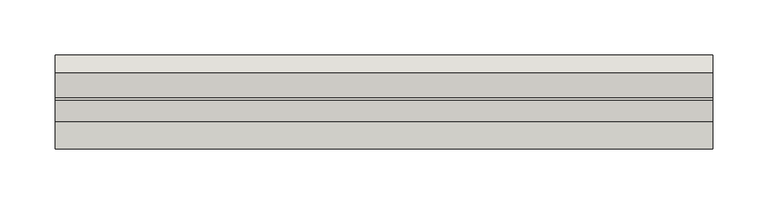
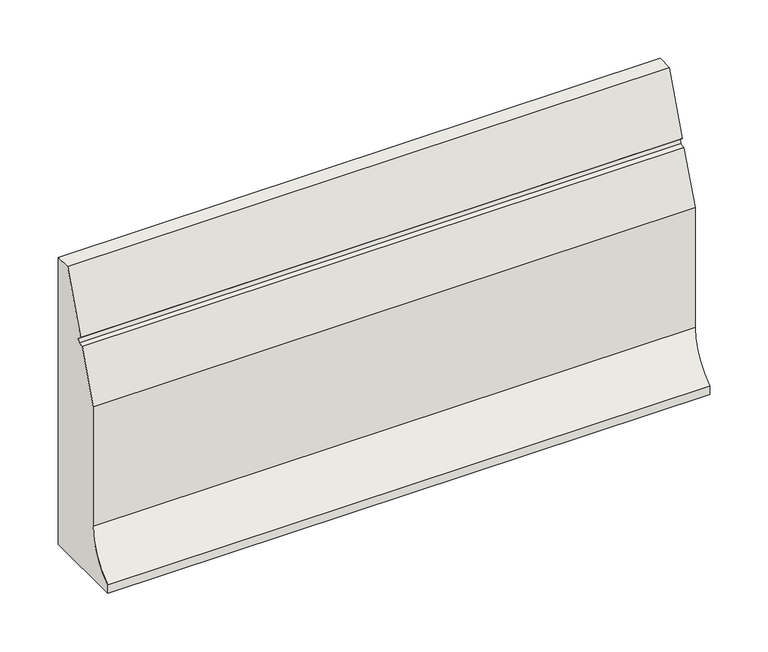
"""IFC4 building model written with IfcOpenShell, lengths in millimetres: wall geometry, GM_PC_WPB_ACO kerb PB straight_ACO : PB H300 standard."""

from ifc_helpers import new_model, si_unit, frame, origin, place, context, project, spatial, source, transform, mapped, element, save
from ifc_brep_helpers import plane_surface, extruded_surface, spline_curve, advanced_brep


def wall_d662d532(model_context):
    return source(origin(), model_context, "Body", "AdvancedBrep", [
        advanced_brep(
        [(0.0, -85.0, 8.9329844), (0.0, -60.02016, 54.9904169), (0.0, -60.02016, 180.0038512), (0.0, -41.0897152, 231.6973826), (0.0, -35.6304755, 232.1929291), (0.0, -34.2965161, 236.00239), (0.0, -38.3747848, 239.3170113), (0.0, -16.191681, 300.0008401), (0.0, 0.0, 300.0008401), (0.0, 0.0, -0.0124899), (0.0, -85.0, -0.0124899), (595.0, -85.0, 8.9329844), (595.0, -85.0, -0.0124899), (595.0, 0.0, -0.0124899), (595.0, 0.0, 300.0008401), (595.0, -16.191681, 300.0008401), (595.0, -38.3747848, 239.3170113), (595.0, -34.2965161, 236.00239), (595.0, -35.6304755, 232.1929291), (595.0, -41.0897152, 231.6973826), (595.0, -60.02016, 180.0038512), (595.0, -60.02016, 54.9904169)],
        [
            (0, 1, spline_curve(3, [(0.0, -85.0, 8.9329844), (0.0, -69.4194957, 19.0724445), (0.0, -60.0210198, 36.401179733), (0.0, -60.02016, 54.9904169)], [4, 4], [0.0, 1.0])),
            (1, 2),
            (2, 3),
            (3, 4),
            (4, 5),
            (5, 6),
            (6, 7),
            (7, 8),
            (8, 9),
            (9, 10),
            (10, 0),
            (11, 12),
            (12, 13),
            (13, 14),
            (14, 15),
            (15, 16),
            (16, 17),
            (17, 18),
            (18, 19),
            (19, 20),
            (20, 21),
            (21, 11, spline_curve(3, [(595.0, -60.02016, 54.9904169), (595.0, -60.0210198, 36.401179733), (595.0, -69.4194957, 19.0724445), (595.0, -85.0, 8.9329844)], [4, 4], [0.0, 1.0])),
            (0, 11),
            (21, 1),
            (20, 2),
            (19, 3),
            (18, 4),
            (17, 5),
            (16, 6),
            (15, 7),
            (14, 8),
            (13, 9),
            (12, 10),
        ],
        [
            plane_surface(frame((0.0, 0.0, 0.0), z_axis=(-1.0, 0.0, 0.0), x_axis=(0.0, 0.0, 1.0))),
            plane_surface(frame((595.0, 0.0, 0.0), z_axis=(1.0, 0.0, 0.0), x_axis=(0.0, 0.0, 1.0))),
            extruded_surface(spline_curve(3, [(595.0, -85.0, 8.9329844), (595.0, -69.4194957, 19.0724445), (595.0, -60.0210198, 36.401179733), (595.0, -60.02016, 54.9904169)], [4, 4], [0.0, 1.0]), (-595.0, 0.0, 0.0), 595.0),
            plane_surface(frame((0.0, -60.02016, 54.9904169), z_axis=(0.0, -1.0, 0.0), x_axis=(1.0, 0.0, 0.0))),
            plane_surface(frame((0.0, -60.02016, 180.0038512), z_axis=(0.0, -0.9390162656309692, 0.34387272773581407), x_axis=(1.0, 0.0, 0.0))),
            plane_surface(frame((0.0, -41.0897152, 231.6973826), z_axis=(0.0, -0.09040040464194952, 0.995905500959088), x_axis=(1.0, 0.0, 0.0))),
            plane_surface(frame((0.0, -35.6304755, 232.1929291), z_axis=(0.0, -0.9438082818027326, 0.3304934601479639), x_axis=(1.0, 0.0, 0.0))),
            plane_surface(frame((0.0, -34.2965161, 236.00239), z_axis=(0.0, -0.6307104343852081, -0.776018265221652), x_axis=(1.0, 0.0, 0.0))),
            plane_surface(frame((0.0, -38.3747848, 239.3170113), z_axis=(0.0, -0.9392141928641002, 0.3433317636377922), x_axis=(1.0, 0.0, 0.0))),
            plane_surface(frame((0.0, -16.191681, 300.0008401), z_axis=(0.0, 0.0, 1.0), x_axis=(1.0, 0.0, 0.0))),
            plane_surface(frame((0.0, 0.0, 300.0008401), z_axis=(0.0, 1.0, 0.0), x_axis=(1.0, 0.0, 0.0))),
            plane_surface(frame((0.0, 0.0, -0.0124899), z_axis=(0.0, 0.0, -1.0), x_axis=(1.0, 0.0, 0.0))),
            plane_surface(frame((0.0, -85.0, -0.0124899), z_axis=(0.0, -1.0, 0.0), x_axis=(1.0, 0.0, 0.0))),
        ],
        [
            (0, [[1, 2, 3, 4, 5, 6, 7, 8, 9, 10, 11]]),
            (1, [[12, 13, 14, 15, 16, 17, 18, 19, 20, 21, 22]]),
            (2, [[-1, 23, -22, 24]]),
            (3, [[-2, -24, -21, 25]]),
            (4, [[-3, -25, -20, 26]]),
            (5, [[-4, -26, -19, 27]]),
            (6, [[-5, -27, -18, 28]]),
            (7, [[-6, -28, -17, 29]]),
            (8, [[-7, -29, -16, 30]]),
            (9, [[-8, -30, -15, 31]]),
            (10, [[-9, -31, -14, 32]]),
            (11, [[-10, -32, -13, 33]]),
            (12, [[-11, -33, -12, -23]]),
        ],
    ),
    ])


if __name__ == "__main__":
    model = new_model("IFC4")
    model_context = context("Model", 3, world=origin())
    ifc_project = project(units=[si_unit("LENGTHUNIT", "METRE", prefix="MILLI")], contexts=[model_context])
    site = spatial("IfcSite", under=ifc_project)
    building = spatial("IfcBuilding", under=site)
    placement = place(None, origin())
    wall_shape = wall_d662d532(model_context)
    element("IfcWall", 1, ObjectType="GM_PC_WPB_ACO kerb PB straight_ACO : PB H300 standard", at=placement, inside=building, context=model_context, shape_type="MappedRepresentation", body=[
        mapped(wall_shape, transform((0.0, 0.0, 0.0), x_axis=(1.0, 0.0, 0.0), y_axis=(0.0, 1.0, 0.0), z_axis=(0.0, 0.0, 1.0))),
    ])
    save(model, "model.ifc")
